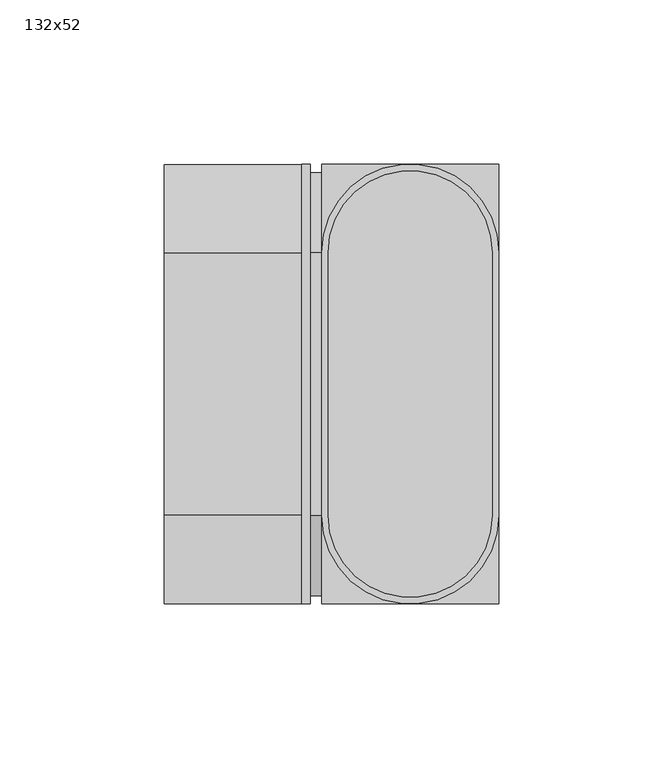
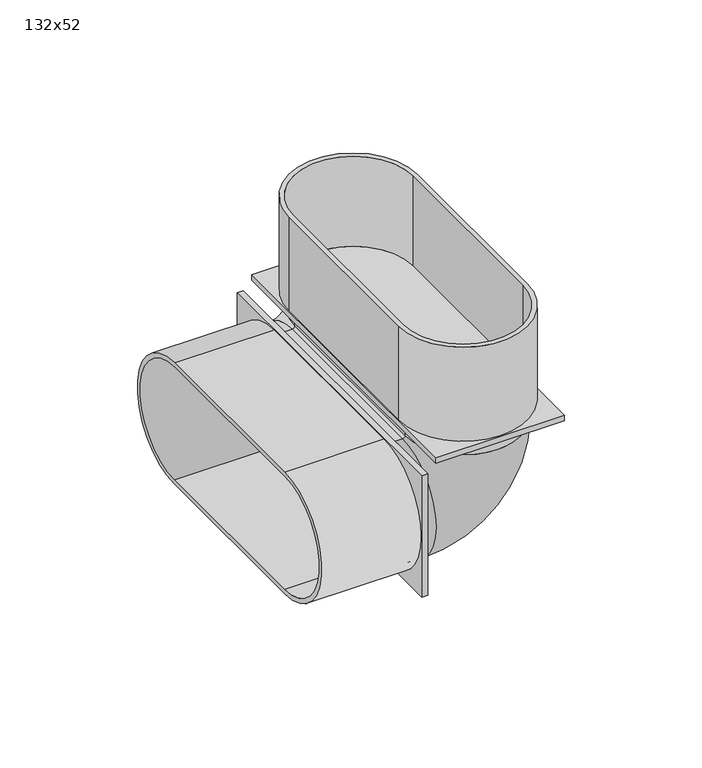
"""IFC4 building model written with IfcOpenShell, lengths in millimetres: duct fitting geometry, NLRS_57_DUF_UN_bend vertical_M&G : 132x52."""

from ifc_helpers import new_model, si_unit, point, frame, origin, place, context, project, spatial, polyline, circle_curve, ellipse_curve, trimmed, outline, extrude, source, transform, mapped, element, save
from ifc_brep_helpers import plane_surface, cylinder_surface, revolved_surface, advanced_brep


def duct_fitting_132x52_f9d3be6e(model_context):
    return source(origin(), model_context, "Body", "SolidModel", [
        extrude(outline(polyline([(27.0, 67.0), (27.0, -67.0), (-27.0, -67.0), (-27.0, 67.0), (27.0, 67.0)])), frame((0.0, 0.0, 30.5), z_axis=(0.0, 0.0, 1.0), x_axis=(1.0, 0.0, 0.0)), (0.0, 0.0, 1.0), 2.5),
        extrude(outline(polyline([(-33.0, -67.0), (-33.0, 67.0), (-30.5, 67.0), (-30.5, -67.0), (-33.0, -67.0)])), frame((0.0, 0.0, -27.0), z_axis=(0.0, 0.0, 1.0), x_axis=(1.0, 0.0, 0.0)), (0.0, 0.0, 1.0), 54.0),
        advanced_brep(
        [(-33.0, -40.0, 27.0), (-33.0, -40.0, -27.0), (-33.0, 40.0, -27.0), (-33.0, 40.0, 27.0), (-33.0, -40.0, 24.5), (-33.0, 40.0, 24.5), (-33.0, 40.0, -24.5), (-33.0, -40.0, -24.5), (-75.0, -40.0, 27.0), (-75.0, 40.0, 27.0), (-75.0, 40.0, -27.0), (-75.0, -40.0, -27.0), (-75.0, 40.0, 25.0), (-75.0, -40.0, 25.0), (-75.0, -40.0, -25.0), (-75.0, 40.0, -25.0), (-35.0, -40.0, 25.0), (-35.0, 40.0, 25.0), (-35.0, 40.0, -25.0), (-35.0, -40.0, -25.0), (-27.0, 40.0, 33.0), (27.0, 40.0, 33.0), (27.0, -40.0, 33.0), (-27.0, -40.0, 33.0), (-24.5, 40.0, 33.0), (-24.5, -40.0, 33.0), (24.5, -40.0, 33.0), (24.5, 40.0, 33.0), (-27.0, 40.0, 75.0), (-27.0, -40.0, 75.0), (27.0, -40.0, 75.0), (27.0, 40.0, 75.0), (-25.0, -40.0, 75.0), (-25.0, 40.0, 75.0), (25.0, 40.0, 75.0), (25.0, -40.0, 75.0), (-25.0, -40.0, 35.0), (25.0, -40.0, 35.0), (25.0, 40.0, 35.0), (-25.0, 40.0, 35.0), (-25.5, -40.0, 24.5), (-25.5, 40.0, 24.5), (-25.5, 40.0, -24.5), (-25.5, -40.0, -24.5), (-24.5, -40.0, 25.5), (-24.5, 40.0, 25.5), (24.5, 40.0, 25.5), (24.5, -40.0, 25.5)],
        [
            (0, 1, circle_curve(frame((-33.0, -40.0, 0.0), z_axis=(1.0, 0.0, 0.0), x_axis=(0.0, -1.0, 0.0)), 27.0)),
            (1, 2),
            (2, 3, circle_curve(frame((-33.0, 40.0, 0.0), z_axis=(1.0, 0.0, 0.0), x_axis=(0.0, -1.0, 0.0)), 27.0)),
            (3, 0),
            (4, 5),
            (5, 6, circle_curve(frame((-33.0, 40.0, 0.0), z_axis=(-1.0, 0.0, 0.0), x_axis=(0.0, 0.0, 1.0)), 24.5)),
            (6, 7),
            (7, 4, circle_curve(frame((-33.0, -40.0, 0.0), z_axis=(-1.0, 0.0, 0.0), x_axis=(0.0, 0.0, 1.0)), 24.5)),
            (8, 9),
            (9, 10, circle_curve(frame((-75.0, 40.0, 0.0), z_axis=(-1.0, 0.0, 0.0), x_axis=(0.0, -1.0, 0.0)), 27.0)),
            (10, 11),
            (11, 8, circle_curve(frame((-75.0, -40.0, 0.0), z_axis=(-1.0, 0.0, 0.0), x_axis=(0.0, -1.0, 0.0)), 27.0)),
            (12, 13),
            (13, 14, circle_curve(frame((-75.0, -40.0, 0.0), z_axis=(1.0, 0.0, 0.0), x_axis=(0.0, 1.0, 0.0)), 25.0)),
            (14, 15),
            (15, 12, circle_curve(frame((-75.0, 40.0, 0.0), z_axis=(1.0, 0.0, 0.0), x_axis=(0.0, 1.0, 0.0)), 25.0)),
            (16, 17),
            (17, 18, circle_curve(frame((-35.0, 40.0, 0.0), z_axis=(-1.0, 0.0, 0.0), x_axis=(0.0, 1.0, 0.0)), 25.0)),
            (18, 19),
            (19, 16, circle_curve(frame((-35.0, -40.0, 0.0), z_axis=(-1.0, 0.0, 0.0), x_axis=(0.0, 1.0, 0.0)), 25.0)),
            (16, 13),
            (12, 17),
            (15, 18),
            (14, 19),
            (0, 8),
            (11, 1),
            (10, 2),
            (9, 3),
            (20, 21, circle_curve(frame((0.0, 40.0, 33.0), z_axis=(0.0, 0.0, -1.0), x_axis=(-1.0, 0.0, 0.0)), 27.0)),
            (21, 22),
            (22, 23, circle_curve(frame((0.0, -40.0, 33.0), z_axis=(0.0, 0.0, -1.0), x_axis=(-1.0, 0.0, 0.0)), 27.0)),
            (23, 20),
            (24, 25),
            (25, 26, circle_curve(frame((0.0, -40.0, 33.0), z_axis=(0.0, 0.0, 1.0), x_axis=(-1.0, 0.0, 0.0)), 24.5)),
            (26, 27),
            (27, 24, circle_curve(frame((0.0, 40.0, 33.0), z_axis=(0.0, 0.0, 1.0), x_axis=(-1.0, 0.0, 0.0)), 24.5)),
            (28, 29),
            (29, 30, circle_curve(frame((0.0, -40.0, 75.0), z_axis=(0.0, 0.0, 1.0), x_axis=(-1.0, 0.0, 0.0)), 27.0)),
            (30, 31),
            (31, 28, circle_curve(frame((0.0, 40.0, 75.0), z_axis=(0.0, 0.0, 1.0), x_axis=(-1.0, 0.0, 0.0)), 27.0)),
            (32, 33),
            (33, 34, circle_curve(frame((0.0, 40.0, 75.0), z_axis=(0.0, 0.0, -1.0), x_axis=(-1.0, 0.0, 0.0)), 25.0)),
            (34, 35),
            (35, 32, circle_curve(frame((0.0, -40.0, 75.0), z_axis=(0.0, 0.0, -1.0), x_axis=(-1.0, 0.0, 0.0)), 25.0)),
            (20, 28),
            (31, 21),
            (30, 22),
            (29, 23),
            (36, 37, circle_curve(frame((0.0, -40.0, 35.0), z_axis=(0.0, 0.0, 1.0), x_axis=(-1.0, 0.0, 0.0)), 25.0)),
            (37, 38),
            (38, 39, circle_curve(frame((0.0, 40.0, 35.0), z_axis=(0.0, 0.0, 1.0), x_axis=(-1.0, 0.0, 0.0)), 25.0)),
            (39, 36),
            (39, 33),
            (32, 36),
            (38, 34),
            (37, 35),
            (4, 40),
            (40, 41),
            (41, 5),
            (41, 42, circle_curve(frame((-25.5, 40.0, 0.0), z_axis=(-1.0, 0.0, 0.0), x_axis=(0.0, 0.0, 1.0)), 24.5)),
            (42, 6),
            (42, 43),
            (43, 7),
            (43, 40, circle_curve(frame((-25.5, -40.0, 0.0), z_axis=(-1.0, 0.0, 0.0), x_axis=(0.0, 0.0, 1.0)), 24.5)),
            (40, 44, circle_curve(frame((-25.5, -40.0, 25.5), z_axis=(0.0, -1.0, 0.0), x_axis=(0.0, 0.0, -1.0)), 1.0)),
            (44, 45),
            (45, 41, circle_curve(frame((-25.5, 40.0, 25.5), z_axis=(0.0, 1.0, 0.0), x_axis=(0.0, 0.0, -1.0)), 1.0)),
            (45, 46, circle_curve(frame((0.0, 40.0, 25.5), z_axis=(0.0, 0.0, -1.0), x_axis=(-1.0, 0.0, 0.0)), 24.5)),
            (46, 42, circle_curve(frame((-25.5, 40.0, 25.5), z_axis=(0.0, 1.0, 0.0), x_axis=(0.0, 0.0, -1.0)), 50.0)),
            (46, 47),
            (47, 43, circle_curve(frame((-25.5, -40.0, 25.5), z_axis=(0.0, 1.0, 0.0), x_axis=(0.0, 0.0, -1.0)), 50.0)),
            (47, 44, circle_curve(frame((0.0, -40.0, 25.5), z_axis=(0.0, 0.0, -1.0), x_axis=(-1.0, 0.0, 0.0)), 24.5)),
            (44, 25),
            (24, 45),
            (27, 46),
            (26, 47),
        ],
        [
            plane_surface(frame((-33.0, 0.0, 0.0), z_axis=(1.0, 0.0, 0.0), x_axis=(0.0, 0.0, 1.0))),
            plane_surface(frame((-75.0, 0.0, 0.0), z_axis=(-1.0, 0.0, 0.0), x_axis=(0.0, 0.0, 1.0))),
            plane_surface(frame((-35.0, 0.0, 0.0), z_axis=(-1.0, 0.0, 0.0), x_axis=(0.0, 0.0, 1.0))),
            plane_surface(frame((-75.0, -40.0, 25.0), z_axis=(0.0, 0.0, -1.0), x_axis=(1.0, 0.0, 0.0))),
            revolved_surface(polyline([(-75.0, 65.0, 0.0), (-35.0, 65.0, 0.0)]), (-75.0, 40.0, 0.0), (-1.0, 0.0, 0.0)),
            plane_surface(frame((-75.0, 40.0, -25.0), z_axis=(0.0, 0.0, 1.0), x_axis=(1.0, 0.0, 0.0))),
            revolved_surface(polyline([(-75.0, -15.0, 0.0), (-35.0, -15.0, 0.0)]), (-75.0, -40.0, 0.0), (-1.0, 0.0, 0.0)),
            cylinder_surface(frame((-33.0, -40.0, 0.0), z_axis=(1.0, 0.0, 0.0), x_axis=(0.0, -1.0, 0.0)), 27.0),
            plane_surface(frame((-33.0, -40.0, -27.0), z_axis=(0.0, 0.0, -1.0), x_axis=(-1.0, 0.0, 0.0))),
            cylinder_surface(frame((-33.0, 40.0, 0.0), z_axis=(1.0, 0.0, 0.0), x_axis=(0.0, -1.0, 0.0)), 27.0),
            plane_surface(frame((-33.0, 40.0, 27.0), z_axis=(0.0, 0.0, 1.0), x_axis=(-1.0, 0.0, 0.0))),
            plane_surface(frame((0.0, 0.0, 33.0), z_axis=(0.0, 0.0, -1.0), x_axis=(0.0, -1.0, 0.0))),
            plane_surface(frame((0.0, 0.0, 75.0), z_axis=(0.0, 0.0, 1.0), x_axis=(0.0, -1.0, 0.0))),
            cylinder_surface(frame((0.0, 40.0, 33.0), z_axis=(0.0, 0.0, -1.0), x_axis=(-1.0, 0.0, 0.0)), 27.0),
            plane_surface(frame((27.0, 40.0, 33.0), z_axis=(1.0, 0.0, 0.0), x_axis=(0.0, 0.0, 1.0))),
            cylinder_surface(frame((0.0, -40.0, 33.0), z_axis=(0.0, 0.0, -1.0), x_axis=(-1.0, 0.0, 0.0)), 27.0),
            plane_surface(frame((-27.0, -40.0, 33.0), z_axis=(-1.0, 0.0, 0.0), x_axis=(0.0, 0.0, 1.0))),
            plane_surface(frame((0.0, 0.0, 35.0), z_axis=(0.0, 0.0, 1.0), x_axis=(0.0, -1.0, 0.0))),
            plane_surface(frame((-25.0, -40.0, 35.0), z_axis=(1.0, 0.0, 0.0), x_axis=(0.0, 0.0, 1.0))),
            revolved_surface(polyline([(-25.0, 40.0, 35.0), (-25.0, 40.0, 75.0)]), (0.0, 40.0, 35.0), (0.0, 0.0, -1.0)),
            plane_surface(frame((25.0, 40.0, 35.0), z_axis=(-1.0, 0.0, 0.0), x_axis=(0.0, 0.0, 1.0))),
            revolved_surface(polyline([(-25.0, -40.0, 35.0), (-25.0, -40.0, 75.0)]), (0.0, -40.0, 35.0), (0.0, 0.0, -1.0)),
            plane_surface(frame((-33.0, -40.0, 24.5), z_axis=(0.0, 0.0, 1.0), x_axis=(1.0, 0.0, 0.0))),
            cylinder_surface(frame((-33.0, 40.0, 0.0), z_axis=(-1.0, 0.0, 0.0), x_axis=(0.0, 0.0, 1.0)), 24.5),
            plane_surface(frame((-33.0, 40.0, -24.5), z_axis=(0.0, 0.0, -1.0), x_axis=(1.0, 0.0, 0.0))),
            cylinder_surface(frame((-33.0, -40.0, 0.0), z_axis=(-1.0, 0.0, 0.0), x_axis=(0.0, 0.0, 1.0)), 24.5),
            revolved_surface(polyline([(-25.5, -40.0, 24.5), (-25.5, 40.0, 24.5)]), (-25.5, 0.0, 25.5), (0.0, -1.0, 0.0)),
            revolved_surface(trimmed(ellipse_curve(frame((-25.5, 40.0, 0.0), z_axis=(-1.0, 0.0, 0.0), x_axis=(0.0, 0.0, 1.0)), 24.5, 24.5), [point((-25.5, 40.0, 24.5))], [point((-25.5, 40.0, -24.5))], True, "CARTESIAN"), (-25.5, 0.0, 25.5), (0.0, -1.0, 0.0)),
            cylinder_surface(frame((-25.5, 0.0, 25.5), z_axis=(0.0, -1.0, 0.0), x_axis=(0.0, 0.0, -1.0)), 50.0),
            revolved_surface(trimmed(ellipse_curve(frame((-25.5, -40.0, 0.0), z_axis=(-1.0, 0.0, 0.0), x_axis=(0.0, 0.0, 1.0)), 24.5, 24.5), [point((-25.5, -40.0, -24.5))], [point((-25.5, -40.0, 24.5))], True, "CARTESIAN"), (-25.5, 0.0, 25.5), (0.0, -1.0, 0.0)),
            plane_surface(frame((-24.5, -40.0, 25.5), z_axis=(-1.0, 0.0, 0.0), x_axis=(0.0, 0.0, 1.0))),
            cylinder_surface(frame((0.0, 40.0, 25.5), z_axis=(0.0, 0.0, -1.0), x_axis=(-1.0, 0.0, 0.0)), 24.5),
            plane_surface(frame((24.5, 40.0, 25.5), z_axis=(1.0, 0.0, 0.0), x_axis=(0.0, 0.0, 1.0))),
            cylinder_surface(frame((0.0, -40.0, 25.5), z_axis=(0.0, 0.0, -1.0), x_axis=(-1.0, 0.0, 0.0)), 24.5),
        ],
        [
            (0, [[1, 2, 3, 4], [5, 6, 7, 8]]),
            (1, [[9, 10, 11, 12], [13, 14, 15, 16]]),
            (2, [[17, 18, 19, 20]]),
            (3, [[-17, 21, -13, 22]]),
            (4, [[-18, -22, -16, 23]]),
            (5, [[-19, -23, -15, 24]]),
            (6, [[-20, -24, -14, -21]]),
            (7, [[-1, 25, -12, 26]]),
            (8, [[-2, -26, -11, 27]]),
            (9, [[-3, -27, -10, 28]]),
            (10, [[-4, -28, -9, -25]]),
            (11, [[29, 30, 31, 32], [33, 34, 35, 36]]),
            (12, [[37, 38, 39, 40], [41, 42, 43, 44]]),
            (13, [[-29, 45, -40, 46]]),
            (14, [[-30, -46, -39, 47]]),
            (15, [[-31, -47, -38, 48]]),
            (16, [[-32, -48, -37, -45]]),
            (17, [[49, 50, 51, 52]]),
            (18, [[-52, 53, -41, 54]]),
            (19, [[-51, 55, -42, -53]]),
            (20, [[-50, 56, -43, -55]]),
            (21, [[-49, -54, -44, -56]]),
            (22, [[57, 58, 59, -5]]),
            (23, [[-59, 60, 61, -6]]),
            (24, [[-61, 62, 63, -7]]),
            (25, [[-57, -8, -63, 64]]),
            (26, [[-58, 65, 66, 67]]),
            (27, [[-60, -67, 68, 69]]),
            (28, [[-62, -69, 70, 71]]),
            (29, [[-64, -71, 72, -65]]),
            (30, [[-66, 73, -33, 74]]),
            (31, [[-68, -74, -36, 75]]),
            (32, [[-70, -75, -35, 76]]),
            (33, [[-72, -76, -34, -73]]),
        ],
    ),
    ])


if __name__ == "__main__":
    model = new_model("IFC4")
    model_context = context("Model", 3, world=origin())
    ifc_project = project(units=[si_unit("LENGTHUNIT", "METRE", prefix="MILLI")], contexts=[model_context])
    site = spatial("IfcSite", under=ifc_project)
    building = spatial("IfcBuilding", under=site)
    placement = place(None, origin())
    duct_fitting_132x52_shape = duct_fitting_132x52_f9d3be6e(model_context)
    element("IfcDuctFitting", 1, ObjectType="NLRS_57_DUF_UN_bend vertical_M&G : 132x52", at=placement, inside=building, context=model_context, shape_type="MappedRepresentation", body=[
        mapped(duct_fitting_132x52_shape, transform((0.0, 0.0, 0.0), x_axis=(1.0, 0.0, 0.0), y_axis=(0.0, 1.0, 0.0), z_axis=(0.0, 0.0, 1.0))),
    ])
    save(model, "model.ifc")
